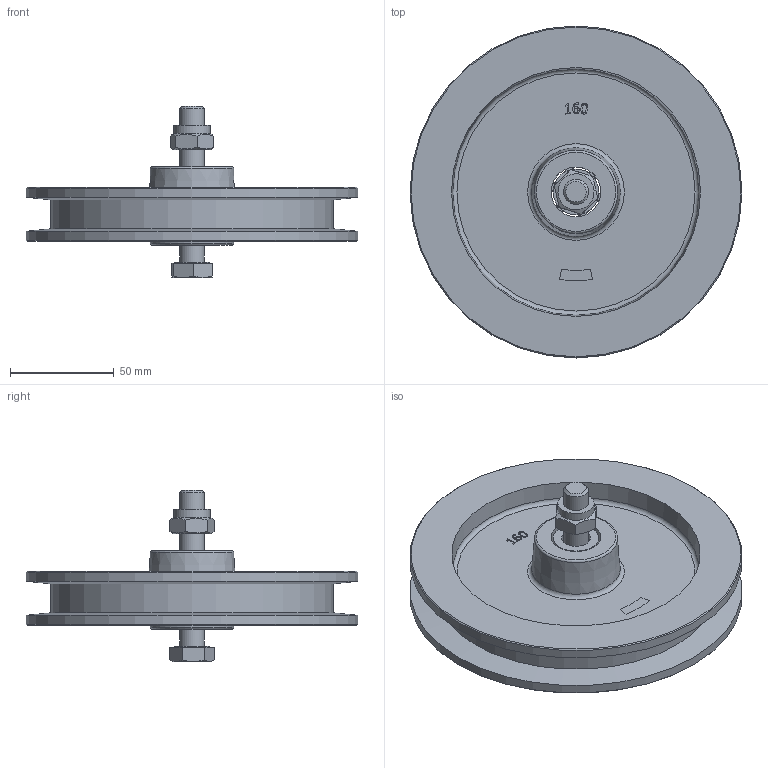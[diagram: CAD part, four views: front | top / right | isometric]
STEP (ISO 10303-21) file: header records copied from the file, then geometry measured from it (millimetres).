
FILE_DESCRIPTION(/* description */ ('Schiebetorrolle lose Ø160'),/* implementation_level */ '2;1');
FILE_NAME(/* name */ 'C:\Temp\AG_VJobSTP\010330471.iam.stp',/* time_stamp */ '2022-09-02T09:52:45+02:00',/* author */ ('O. Loukota'),/* organization */ (''),/* preprocessor_version */ 'ST-DEVELOPER v18.1',/* originating_system */ 'Autodesk Inventor 2021',/* authorisation */ '');
FILE_SCHEMA (('AUTOMOTIVE_DESIGN { 1 0 10303 214 3 1 1 }'));
Length unit declared in the file: millimetre
Products named in the file (8): 010330471; 337000106; DIN EN ISO 7040 - M12; DIN 931-1 - M12 x 75; 010330463_01; 337000294; 337000295; 337000296
Assembly tree (12 placements, depth 3):
  010330471
    337000106
    DIN EN ISO 7040 - M12
    DIN 931-1 - M12 x 75
    010330463_01
      337000294
      337000295
      337000296  x6
Bounding box: 160 x 160 x 82.5 mm (x, y, z)
Volume: 253094.9 mm3; surface area: 88700.3 mm2
Topology: 11 solids, 11 shells, 190 faces, 426 edges, 275 vertices
Faces by surface type: plane 77, cylinder 44, bspline 32, cone 31, torus 6
Full cylindrical faces by diameter (mm): 2 x12, 6 x6, 10.106 x1, 12 x1, 14 x2, 17.4 x2, 22 x2, 24 x1, 136 x1, 160 x2
Entity records: 5591 total; most frequent: CARTESIAN_POINT 1335, ORIENTED_EDGE 822, DIRECTION 804, EDGE_CURVE 411, AXIS2_PLACEMENT_3D 318, VERTEX_POINT 265, EDGE_LOOP 212, FACE_OUTER_BOUND 175
